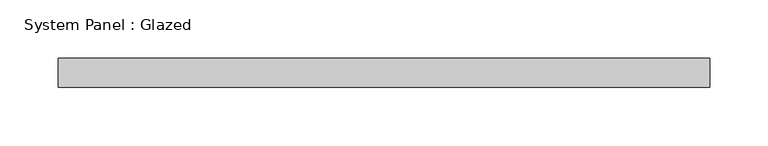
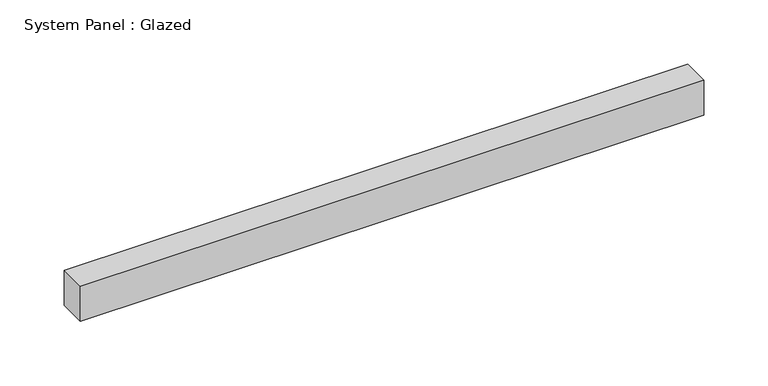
"""IFC4 building model written with IfcOpenShell, lengths in millimetres: plate geometry, System Panel : Glazed."""

from ifc_helpers import new_model, si_unit, origin, origin_with_axes, place, context, project, spatial, polyline, outline, extrude, source, transform, mapped, element, save


def system_panel_glazed_82870b35(model_context):
    return source(origin(), model_context, "Body", "SweptSolid", [
        extrude(outline(polyline([(279.8, 24.5), (-279.8, 24.5), (-279.8, 49.5), (279.8, 49.5), (279.8, 24.5)])), origin_with_axes(), (0.0, 0.0, 1.0), 33.25),
    ])


if __name__ == "__main__":
    model = new_model("IFC4")
    model_context = context("Model", 3, world=origin())
    ifc_project = project(units=[si_unit("LENGTHUNIT", "METRE", prefix="MILLI")], contexts=[model_context])
    site = spatial("IfcSite", under=ifc_project)
    building = spatial("IfcBuilding", under=site)
    placement = place(None, origin())
    system_panel_glazed_shape = system_panel_glazed_82870b35(model_context)
    element("IfcPlate", 1, ObjectType="System Panel : Glazed", at=placement, inside=building, context=model_context, shape_type="MappedRepresentation", body=[
        mapped(system_panel_glazed_shape, transform((0.0, 0.0, 0.0), x_axis=(1.0, 0.0, 0.0), y_axis=(0.0, 1.0, 0.0), z_axis=(0.0, 0.0, 1.0))),
    ])
    save(model, "model.ifc")
